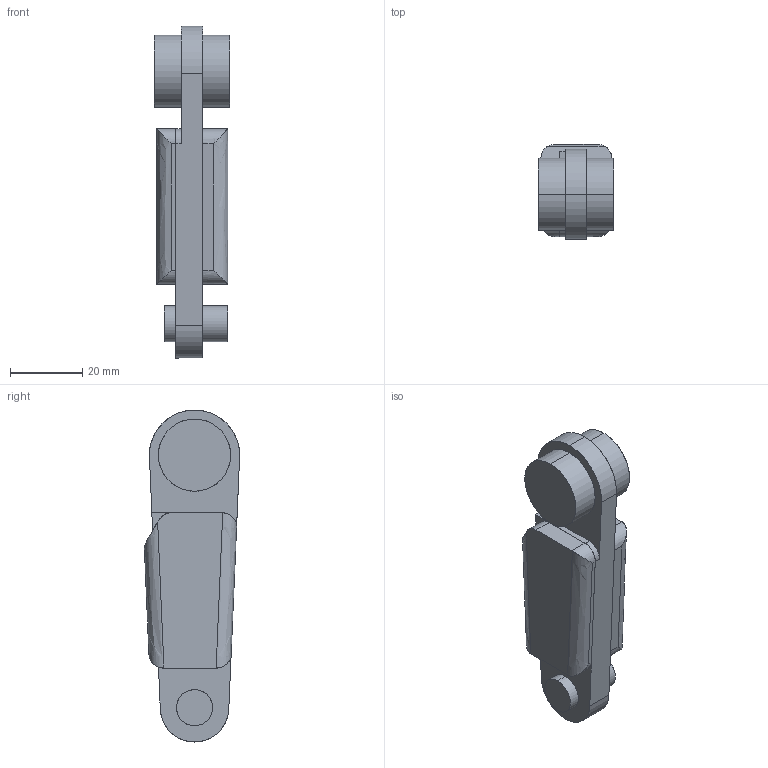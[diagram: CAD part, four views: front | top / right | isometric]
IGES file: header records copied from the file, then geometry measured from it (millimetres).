
Start section: SolidWorks IGES file using analytic representation for surfaces
Global section: file name: B4159.IGS; native system: SolidWorks 2010; preprocessor: SolidWorks 2010; author: dw; date: 101019.110915; units: millimetre
Bounding box: 21 x 26.38 x 92 mm (x, y, z)
Surface area: 11506.1 mm2 (no closed solid volume)
Topology: 0 solids, 0 shells, 81 faces, 1056 edges, 1056 vertices
Faces by surface type: bspline 53, revolution 28
